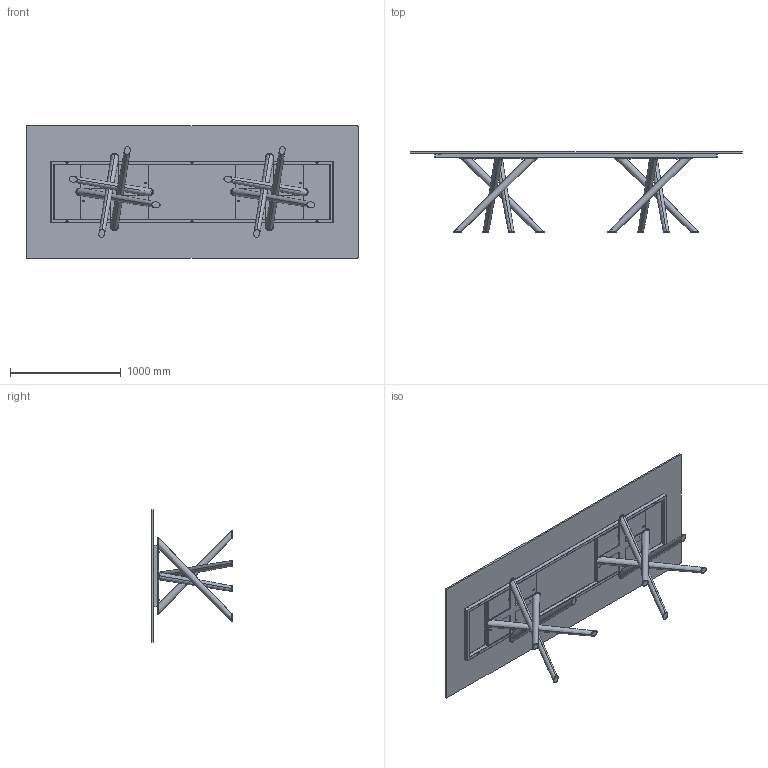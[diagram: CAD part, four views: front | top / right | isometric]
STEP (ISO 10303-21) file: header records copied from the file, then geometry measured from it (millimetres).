
FILE_DESCRIPTION (( 'STEP AP203' ), '1' );
FILE_NAME ('BA24G.STEP', '2024-08-08T06:07:42', ( '' ), ( '' ), 'SwSTEP 2.0', 'SolidWorks 2022', '' );
FILE_SCHEMA (( 'CONFIG_CONTROL_DESIGN' ));
Length unit declared in the file: millimetre
Products named in the file (12): rondella M8_8X16; M8xXXmm_M8x20mm; BAB000000_01-00-Croce Superiore baly; BAB000000_02-00-basamento pali conificati; TTAV03_02-06-VASSOIO IRRIGIDIMENTO TELAIO UNIVERSALE RETTANGOLARE; BA24G; Parte5^BAB000000-00-BALY BASE GREZZA; TTAV03_01-06-RING TUBO TELAIO UNIVERSALE X TAVOLI 300-340cm; C2XCRXX-00-Piani Rettangolari Cristallo_24 3000x1200; 434070-00-PIEDINO TPV GOMMA NERO D. 30x8max18; BAB000000-00-BALY BASE GREZZA; TTAV03-06-TELAIO UNIVERSALE X TAVOLI 300-340cm
Assembly tree (34 placements, depth 3):
  BA24G
    C2XCRXX-00-Piani Rettangolari Cristallo_24 3000x1200
    TTAV03-06-TELAIO UNIVERSALE X TAVOLI 300-340cm
      TTAV03_01-06-RING TUBO TELAIO UNIVERSALE X TAVOLI 300-340cm
      TTAV03_02-06-VASSOIO IRRIGIDIMENTO TELAIO UNIVERSALE RETTANGOLARE  x2
    BAB000000-00-BALY BASE GREZZA  x2
      BAB000000_01-00-Croce Superiore baly
      BAB000000_02-00-basamento pali conificati
      Parte5^BAB000000-00-BALY BASE GREZZA
    434070-00-PIEDINO TPV GOMMA NERO D. 30x8max18  x8
    M8xXXmm_M8x20mm  x8
    rondella M8_8X16  x8
Bounding box: 3000 x 730 x 1200 mm (x, y, z)
Volume: 63434042 mm3; surface area: 13749840.9 mm2
Topology: 54 solids, 54 shells, 1032 faces, 2334 edges, 1396 vertices
Faces by surface type: plane 434, cylinder 294, cone 152, torus 128, bspline 16, sphere 8
Entity records: 15204 total; most frequent: CARTESIAN_POINT 3779, DIRECTION 2046, ORIENTED_EDGE 1918, EDGE_CURVE 959, AXIS2_PLACEMENT_3D 747, VERTEX_POINT 594, LINE 552, VECTOR 552
